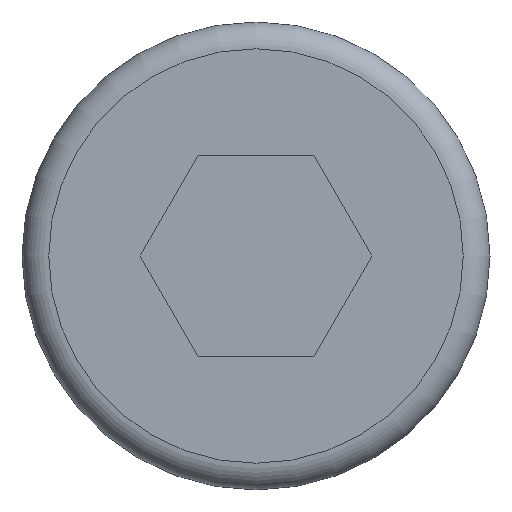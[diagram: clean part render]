
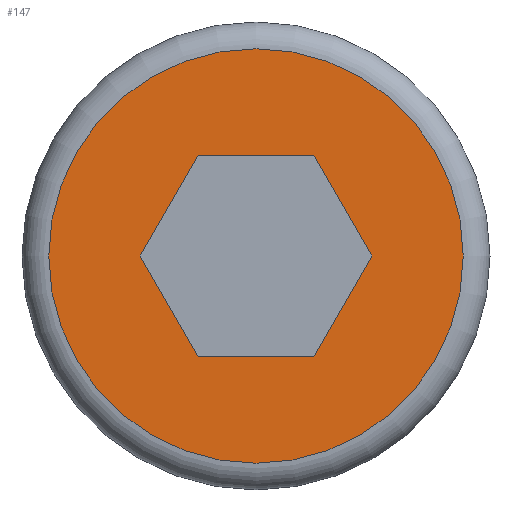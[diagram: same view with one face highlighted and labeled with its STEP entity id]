
A CAD part, left-side view. The second image highlights one B-rep face of the part: STEP entity #147.
In plain terms, the highlighted planar face has unit normal (-1, 0, 0).
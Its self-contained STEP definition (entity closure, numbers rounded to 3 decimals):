
#121=PLANE('',#375);
#132=FACE_BOUND('',#181,.T.);
#133=FACE_BOUND('',#182,.T.);
#147=ADVANCED_FACE('',(#132,#133),#121,.F.);
#181=EDGE_LOOP('',(#230));
#182=EDGE_LOOP('',(#231,#232,#233,#234,#235,#236));
#208=B_SPLINE_CURVE_WITH_KNOTS('',3,(#1288,#1289,#1290,#1291),
 .UNSPECIFIED.,.F.,.F.,(4,4),(0.,1.),.UNSPECIFIED.);
#209=B_SPLINE_CURVE_WITH_KNOTS('',3,(#1294,#1295,#1296,#1297),
 .UNSPECIFIED.,.F.,.F.,(4,4),(0.,1.),.UNSPECIFIED.);
#210=B_SPLINE_CURVE_WITH_KNOTS('',3,(#1299,#1300,#1301,#1302),
 .UNSPECIFIED.,.F.,.F.,(4,4),(0.,1.),.UNSPECIFIED.);
#211=B_SPLINE_CURVE_WITH_KNOTS('',3,(#1304,#1305,#1306,#1307),
 .UNSPECIFIED.,.F.,.F.,(4,4),(0.,1.),.UNSPECIFIED.);
#212=B_SPLINE_CURVE_WITH_KNOTS('',3,(#1309,#1310,#1311,#1312),
 .UNSPECIFIED.,.F.,.F.,(4,4),(0.,1.),.UNSPECIFIED.);
#213=B_SPLINE_CURVE_WITH_KNOTS('',3,(#1314,#1315,#1316,#1317),
 .UNSPECIFIED.,.F.,.F.,(4,4),(0.,1.),.UNSPECIFIED.);
#230=ORIENTED_EDGE('',*,*,#328,.T.);
#231=ORIENTED_EDGE('',*,*,#329,.T.);
#232=ORIENTED_EDGE('',*,*,#330,.T.);
#233=ORIENTED_EDGE('',*,*,#331,.T.);
#234=ORIENTED_EDGE('',*,*,#332,.T.);
#235=ORIENTED_EDGE('',*,*,#333,.T.);
#236=ORIENTED_EDGE('',*,*,#334,.T.);
#302=VERTEX_POINT('',#1287);
#303=VERTEX_POINT('',#1292);
#304=VERTEX_POINT('',#1293);
#305=VERTEX_POINT('',#1298);
#306=VERTEX_POINT('',#1303);
#307=VERTEX_POINT('',#1308);
#308=VERTEX_POINT('',#1313);
#328=EDGE_CURVE('',#302,#302,#362,.T.);
#329=EDGE_CURVE('',#303,#304,#208,.T.);
#330=EDGE_CURVE('',#304,#305,#209,.T.);
#331=EDGE_CURVE('',#305,#306,#210,.T.);
#332=EDGE_CURVE('',#306,#307,#211,.T.);
#333=EDGE_CURVE('',#307,#308,#212,.T.);
#334=EDGE_CURVE('',#308,#303,#213,.T.);
#362=CIRCLE('',#374,1.55);
#374=AXIS2_PLACEMENT_3D('',#1286,#406,#407);
#375=AXIS2_PLACEMENT_3D('',#1318,#408,#409);
#406=DIRECTION('',(-1.,0.,0.));
#407=DIRECTION('',(0.,0.,1.));
#408=DIRECTION('',(1.,0.,0.));
#409=DIRECTION('',(0.,0.,-1.));
#1286=CARTESIAN_POINT('',(-1720.806,-34.659,0.));
#1287=CARTESIAN_POINT('',(-1720.806,-34.659,1.55));
#1288=CARTESIAN_POINT('',(-1720.806,-34.226,-0.75));
#1289=CARTESIAN_POINT('',(-1720.806,-34.081,-0.5));
#1290=CARTESIAN_POINT('',(-1720.806,-33.937,-0.25));
#1291=CARTESIAN_POINT('',(-1720.806,-33.793,0.));
#1292=CARTESIAN_POINT('',(-1720.806,-34.226,-0.75));
#1293=CARTESIAN_POINT('',(-1720.806,-33.793,0.));
#1294=CARTESIAN_POINT('',(-1720.806,-33.793,0.));
#1295=CARTESIAN_POINT('',(-1720.806,-33.937,0.25));
#1296=CARTESIAN_POINT('',(-1720.806,-34.081,0.5));
#1297=CARTESIAN_POINT('',(-1720.806,-34.226,0.75));
#1298=CARTESIAN_POINT('',(-1720.806,-34.226,0.75));
#1299=CARTESIAN_POINT('',(-1720.806,-34.226,0.75));
#1300=CARTESIAN_POINT('',(-1720.806,-34.514,0.75));
#1301=CARTESIAN_POINT('',(-1720.806,-34.803,0.75));
#1302=CARTESIAN_POINT('',(-1720.806,-35.092,0.75));
#1303=CARTESIAN_POINT('',(-1720.806,-35.092,0.75));
#1304=CARTESIAN_POINT('',(-1720.806,-35.092,0.75));
#1305=CARTESIAN_POINT('',(-1720.806,-35.236,0.5));
#1306=CARTESIAN_POINT('',(-1720.806,-35.38,0.25));
#1307=CARTESIAN_POINT('',(-1720.806,-35.525,0.));
#1308=CARTESIAN_POINT('',(-1720.806,-35.525,0.));
#1309=CARTESIAN_POINT('',(-1720.806,-35.525,0.));
#1310=CARTESIAN_POINT('',(-1720.806,-35.38,-0.25));
#1311=CARTESIAN_POINT('',(-1720.806,-35.236,-0.5));
#1312=CARTESIAN_POINT('',(-1720.806,-35.092,-0.75));
#1313=CARTESIAN_POINT('',(-1720.806,-35.092,-0.75));
#1314=CARTESIAN_POINT('',(-1720.806,-35.092,-0.75));
#1315=CARTESIAN_POINT('',(-1720.806,-34.803,-0.75));
#1316=CARTESIAN_POINT('',(-1720.806,-34.514,-0.75));
#1317=CARTESIAN_POINT('',(-1720.806,-34.226,-0.75));
#1318=CARTESIAN_POINT('',(-1720.806,-33.109,0.));
